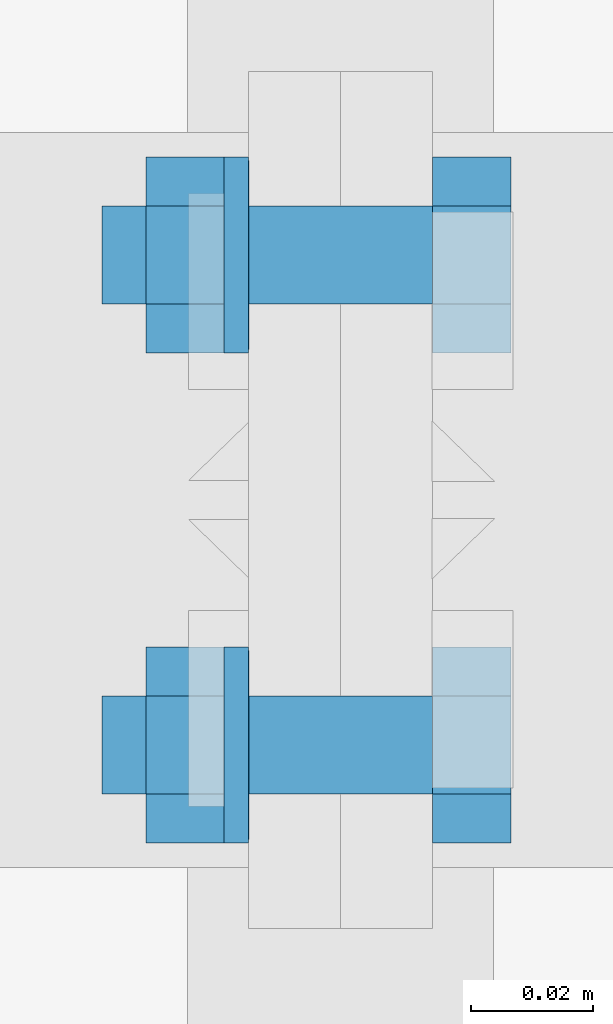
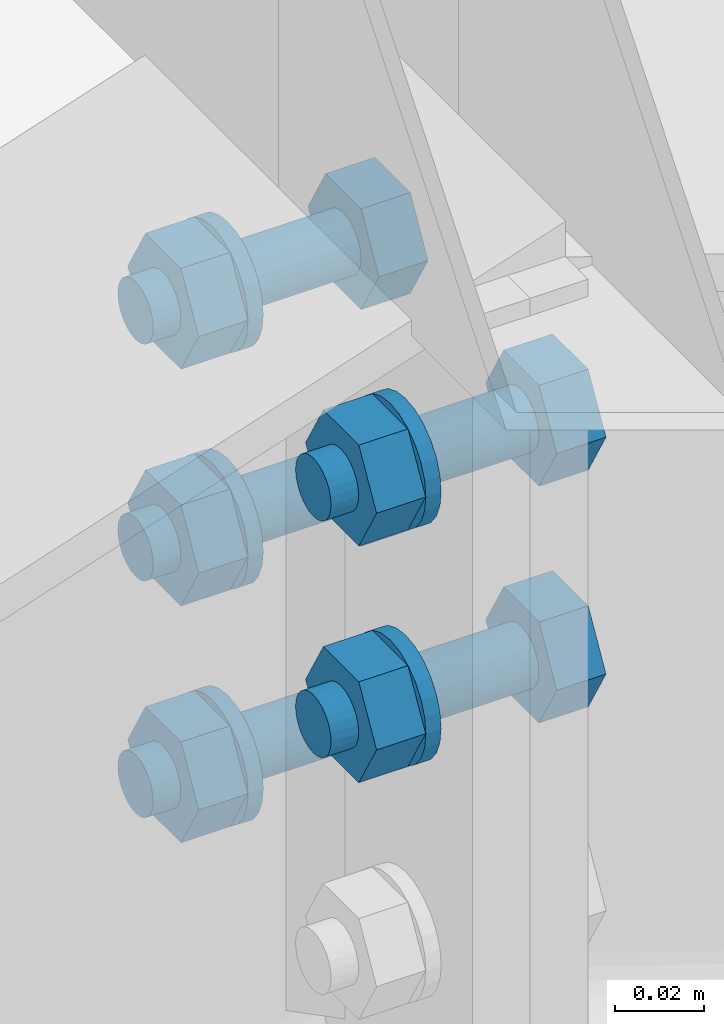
# One storey, part 27 of 53: 19 mechanical fasteners.
"""IFC4 building model written with IfcOpenShell, lengths in metres."""

from ifc_helpers import new_model, si_unit, frame, origin_with_axes, place, context, project, spatial, polyline, outline, extrude, type_object, element, save


model = new_model("IFC4")

# Units and contexts
model_context = context("Model", 3, precision=1e-05, world=origin_with_axes())
ifc_project = project(units=[si_unit("LENGTHUNIT", "METRE"), si_unit("AREAUNIT", "SQUARE_METRE"), si_unit("VOLUMEUNIT", "CUBIC_METRE"), si_unit("MASSUNIT", "GRAM", prefix="KILO"), si_unit("TIMEUNIT", "SECOND"), si_unit("PLANEANGLEUNIT", "RADIAN"), si_unit("SOLIDANGLEUNIT", "STERADIAN"), si_unit("THERMODYNAMICTEMPERATUREUNIT", "DEGREE_CELSIUS")], contexts=[model_context])

# Site, building, storey
placement_1 = place(None, origin_with_axes())
site = spatial("IfcSite", under=ifc_project, at=placement_1, Name="Italia", CompositionType="ELEMENT")
building = spatial("IfcBuilding", under=site, at=placement_1, Name="Capannone", CompositionType="ELEMENT")
storey_placement = place(None, frame((0.0, 0.0, 5.550000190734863), z_axis=(0.0, 0.0, 1.0), x_axis=(1.0, 0.0, 0.0)))
storey = spatial("IfcBuildingStorey", under=building, at=storey_placement, Name="Storey 1", CompositionType="ELEMENT", Elevation=5.550000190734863)

# Mechanical fasteners
mechanical_fastener_type_1 = type_object("IfcMechanicalFastenerType", Name="Collegamenti -1142_-1128 -1143_-1130 -1144_-1132 -1145_-1134 -1146_-1136 -1147_-1138", PredefinedType="BOLT")
placement_2 = place(placement_1, origin_with_axes())
mechanical_fastener_1_placement = place(placement_2, origin_with_axes())
element("IfcMechanicalFastener", 1, at=mechanical_fastener_1_placement, inside=storey, type_object=mechanical_fastener_type_1, Name="Collegamenti -1142_-1128 -1143_-1130 -1144_-1132 -1145_-1134 -1146_-1136 -1147_-1138", NominalDiameter=0.016, context=model_context, shape_type="SweptSolid", body=[
    extrude(outline(polyline([(0.0, 0.0), (-0.000272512, -0.00207043), (-0.00107169, -0.00400019), (-0.00234294, -0.00565672), (-0.00399995, -0.00692797), (-0.00592923, -0.00772762), (-0.0079999, -0.0079999), (-0.0100706, -0.00772762), (-0.0119998, -0.00692797), (-0.0136569, -0.00565672), (-0.0149281, -0.00400019), (-0.0157273, -0.00207043), (-0.0159998, 0.0), (-0.0157273, 0.00207043), (-0.0149281, 0.00400019), (-0.0136569, 0.00565672), (-0.0119998, 0.00692797), (-0.0100706, 0.00772762), (-0.0079999, 0.0079999), (-0.00592923, 0.00772762), (-0.00399995, 0.00692797), (-0.00234294, 0.00565672), (-0.00107169, 0.00400019), (-0.000272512, 0.00207043), (0.0, 0.0)])), frame((6.961, 3.048, 7.91131), z_axis=(1.0, 0.0, -1.7660668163e-05), x_axis=(0.0, 1.0, 0.0)), (0.0, 0.0, 1.0), 0.0539999),
])
mechanical_fastener_type_2 = type_object("IfcMechanicalFastenerType", Name="Collegamenti -1142_-1128 -1143_-1130 -1144_-1132 -1145_-1134 -1146_-1136 -1147_-1138", PredefinedType="BOLT")
mechanical_fastener_2_placement = place(placement_2, origin_with_axes())
element("IfcMechanicalFastener", 2, at=mechanical_fastener_2_placement, inside=storey, type_object=mechanical_fastener_type_2, Name="Collegamenti -1142_-1128 -1143_-1130 -1144_-1132 -1145_-1134 -1146_-1136 -1147_-1138", NominalDiameter=0.0159995, context=model_context, shape_type="SweptSolid", body=[
    extrude(outline(polyline([(0.0, 0.0), (-0.016, 0.0), (-0.0240002, 0.0138569), (-0.016, 0.0277128), (0.0, 0.0277128), (0.0079999, 0.0138569), (0.0, 0.0)])), frame((6.9682, 3.048, 7.89746), z_axis=(1.0, 0.0, 0.0), x_axis=(0.0, 1.0, 0.0)), (0.0, 0.0, 1.0), 0.0128002),
])
mechanical_fastener_type_3 = type_object("IfcMechanicalFastenerType", Name="Collegamenti -1142_-1128 -1143_-1130 -1144_-1132 -1145_-1134 -1146_-1136 -1147_-1138", PredefinedType="BOLT")
mechanical_fastener_3_placement = place(placement_2, origin_with_axes())
element("IfcMechanicalFastener", 3, at=mechanical_fastener_3_placement, inside=storey, type_object=mechanical_fastener_type_3, Name="Collegamenti -1142_-1128 -1143_-1130 -1144_-1132 -1145_-1134 -1146_-1136 -1147_-1138", NominalDiameter=0.032, context=model_context, shape_type="SweptSolid", body=[
    extrude(outline(polyline([(0.0, 0.0), (-0.000545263, -0.00414133), (-0.00214362, -0.0079999), (-0.00468636, -0.0113139), (-0.00800014, -0.0138564), (-0.0118589, -0.0154548), (-0.016, -0.0159998), (-0.0201411, -0.0154548), (-0.0239999, -0.0138564), (-0.0273137, -0.0113139), (-0.0298564, -0.0079999), (-0.0314548, -0.00414133), (-0.0320001, 0.0), (-0.0314548, 0.00414133), (-0.0298564, 0.0079999), (-0.0273137, 0.0113139), (-0.0239999, 0.0138564), (-0.0201411, 0.0154548), (-0.016, 0.0159998), (-0.0118589, 0.0154548), (-0.00800014, 0.0138564), (-0.00468636, 0.0113139), (-0.00214362, 0.0079999), (-0.000545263, 0.00414133), (0.0, 0.0)])), frame((6.981, 3.056, 7.91131), z_axis=(1.0, 0.0, 0.0), x_axis=(0.0, 1.0, 0.0)), (0.0, 0.0, 1.0), 0.00399923),
])
mechanical_fastener_type_4 = type_object("IfcMechanicalFastenerType", Name="Collegamenti -1142_-1128 -1143_-1130 -1144_-1132 -1145_-1134 -1146_-1136 -1147_-1138", PredefinedType="BOLT")
mechanical_fastener_4_placement = place(placement_2, origin_with_axes())
element("IfcMechanicalFastener", 4, at=mechanical_fastener_4_placement, inside=storey, type_object=mechanical_fastener_type_4, Name="Collegamenti -1142_-1128 -1143_-1130 -1144_-1132 -1145_-1134 -1146_-1136 -1147_-1138", NominalDiameter=0.0159995, context=model_context, shape_type="SweptSolid", body=[
    extrude(outline(polyline([(0.0, 0.0), (-0.016, 0.0), (-0.0239999, 0.0138559), (-0.016, 0.0277128), (0.0, 0.0277128), (0.00800014, 0.0138559), (0.0, 0.0)])), frame((7.015, 2.968, 7.96246), z_axis=(1.0, 0.0, 3.7252273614e-05), x_axis=(0.0, 1.0, 0.0)), (0.0, 0.0, 1.0), 0.0128002),
])
mechanical_fastener_type_5 = type_object("IfcMechanicalFastenerType", Name="Collegamenti -1142_-1128 -1143_-1130 -1144_-1132 -1145_-1134 -1146_-1136 -1147_-1138", PredefinedType="BOLT")
mechanical_fastener_5_placement = place(placement_2, origin_with_axes())
element("IfcMechanicalFastener", 5, at=mechanical_fastener_5_placement, inside=storey, type_object=mechanical_fastener_type_5, Name="Collegamenti -1142_-1128 -1143_-1130 -1144_-1132 -1145_-1134 -1146_-1136 -1147_-1138", NominalDiameter=0.016, context=model_context, shape_type="SweptSolid", body=[
    extrude(outline(polyline([(0.0, 0.0), (-0.000272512, -0.00207043), (-0.00107169, -0.00400019), (-0.00234294, -0.00565672), (-0.00399995, -0.00692797), (-0.00592923, -0.00772762), (-0.0079999, -0.0079999), (-0.0100706, -0.00772762), (-0.0119998, -0.00692797), (-0.0136569, -0.00565672), (-0.0149281, -0.00400019), (-0.0157273, -0.00207043), (-0.0159998, 0.0), (-0.0157273, 0.00207043), (-0.0149281, 0.00400019), (-0.0136569, 0.00565672), (-0.0119998, 0.00692797), (-0.0100706, 0.00772762), (-0.0079999, 0.0079999), (-0.00592923, 0.00772762), (-0.00399995, 0.00692797), (-0.00234294, 0.00565672), (-0.00107169, 0.00400019), (-0.000272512, 0.00207043), (0.0, 0.0)])), frame((6.961, 2.968, 7.97631), z_axis=(1.0, 0.0, 0.0), x_axis=(0.0, 1.0, 0.0)), (0.0, 0.0, 1.0), 0.0539999),
])
mechanical_fastener_type_6 = type_object("IfcMechanicalFastenerType", Name="Collegamenti -1142_-1128 -1143_-1130 -1144_-1132 -1145_-1134 -1146_-1136 -1147_-1138", PredefinedType="BOLT")
mechanical_fastener_6_placement = place(placement_2, origin_with_axes())
element("IfcMechanicalFastener", 6, at=mechanical_fastener_6_placement, inside=storey, type_object=mechanical_fastener_type_6, Name="Collegamenti -1142_-1128 -1143_-1130 -1144_-1132 -1145_-1134 -1146_-1136 -1147_-1138", NominalDiameter=0.0159995, context=model_context, shape_type="SweptSolid", body=[
    extrude(outline(polyline([(0.0, 0.0), (-0.016, 0.0), (-0.0239999, 0.0138559), (-0.016, 0.0277128), (0.0, 0.0277128), (0.00800014, 0.0138559), (0.0, 0.0)])), frame((6.9682, 2.968, 7.96246), z_axis=(1.0, 0.0, -3.7253659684e-05), x_axis=(0.0, 1.0, 0.0)), (0.0, 0.0, 1.0), 0.0127997),
])
mechanical_fastener_type_7 = type_object("IfcMechanicalFastenerType", Name="Collegamenti -1142_-1128 -1143_-1130 -1144_-1132 -1145_-1134 -1146_-1136 -1147_-1138", PredefinedType="BOLT")
mechanical_fastener_7_placement = place(placement_2, origin_with_axes())
element("IfcMechanicalFastener", 7, at=mechanical_fastener_7_placement, inside=storey, type_object=mechanical_fastener_type_7, Name="Collegamenti -1142_-1128 -1143_-1130 -1144_-1132 -1145_-1134 -1146_-1136 -1147_-1138", NominalDiameter=0.032, context=model_context, shape_type="SweptSolid", body=[
    extrude(outline(polyline([(0.0, 0.0), (-0.000545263, -0.00414133), (-0.00214362, -0.0079999), (-0.00468636, -0.0113139), (-0.00800014, -0.0138564), (-0.0118589, -0.0154548), (-0.016, -0.0159998), (-0.0201411, -0.0154548), (-0.0239999, -0.0138564), (-0.0273137, -0.0113139), (-0.0298564, -0.0079999), (-0.0314548, -0.00414133), (-0.0320001, 0.0), (-0.0314548, 0.00414133), (-0.0298564, 0.0079999), (-0.0273137, 0.0113139), (-0.0239999, 0.0138564), (-0.0201411, 0.0154548), (-0.016, 0.0159998), (-0.0118589, 0.0154548), (-0.00800014, 0.0138564), (-0.00468636, 0.0113139), (-0.00214362, 0.0079999), (-0.000545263, 0.00414133), (0.0, 0.0)])), frame((6.981, 2.976, 7.97631), z_axis=(1.0, 0.0, 0.000238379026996), x_axis=(0.0, 1.0, 0.0)), (0.0, 0.0, 1.0), 0.00400066),
])
mechanical_fastener_type_8 = type_object("IfcMechanicalFastenerType", Name="Collegamenti -1142_-1128 -1143_-1130 -1144_-1132 -1145_-1134 -1146_-1136 -1147_-1138", PredefinedType="BOLT")
mechanical_fastener_8_placement = place(placement_2, origin_with_axes())
element("IfcMechanicalFastener", 8, at=mechanical_fastener_8_placement, inside=storey, type_object=mechanical_fastener_type_8, Name="Collegamenti -1142_-1128 -1143_-1130 -1144_-1132 -1145_-1134 -1146_-1136 -1147_-1138", NominalDiameter=0.0159995, context=model_context, shape_type="SweptSolid", body=[
    extrude(outline(polyline([(0.0, 0.0), (-0.016, 0.0), (-0.0240002, 0.0138559), (-0.016, 0.0277128), (0.0, 0.0277128), (0.0079999, 0.0138559), (0.0, 0.0)])), frame((7.015, 3.048, 7.96246), z_axis=(1.0, 0.0, 3.7252273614e-05), x_axis=(0.0, 1.0, 0.0)), (0.0, 0.0, 1.0), 0.0128002),
])
mechanical_fastener_type_9 = type_object("IfcMechanicalFastenerType", Name="Collegamenti -1142_-1128 -1143_-1130 -1144_-1132 -1145_-1134 -1146_-1136 -1147_-1138", PredefinedType="BOLT")
mechanical_fastener_9_placement = place(placement_2, origin_with_axes())
element("IfcMechanicalFastener", 9, at=mechanical_fastener_9_placement, inside=storey, type_object=mechanical_fastener_type_9, Name="Collegamenti -1142_-1128 -1143_-1130 -1144_-1132 -1145_-1134 -1146_-1136 -1147_-1138", NominalDiameter=0.016, context=model_context, shape_type="SweptSolid", body=[
    extrude(outline(polyline([(0.0, 0.0), (-0.000272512, -0.00207043), (-0.00107169, -0.00400019), (-0.00234294, -0.00565672), (-0.00399995, -0.00692797), (-0.00592923, -0.00772762), (-0.0079999, -0.0079999), (-0.0100706, -0.00772762), (-0.0119998, -0.00692797), (-0.0136569, -0.00565672), (-0.0149281, -0.00400019), (-0.0157273, -0.00207043), (-0.0159998, 0.0), (-0.0157273, 0.00207043), (-0.0149281, 0.00400019), (-0.0136569, 0.00565672), (-0.0119998, 0.00692797), (-0.0100706, 0.00772762), (-0.0079999, 0.0079999), (-0.00592923, 0.00772762), (-0.00399995, 0.00692797), (-0.00234294, 0.00565672), (-0.00107169, 0.00400019), (-0.000272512, 0.00207043), (0.0, 0.0)])), frame((6.961, 3.048, 7.97631), z_axis=(1.0, 0.0, 0.0), x_axis=(0.0, 1.0, 0.0)), (0.0, 0.0, 1.0), 0.0539999),
])
mechanical_fastener_type_10 = type_object("IfcMechanicalFastenerType", Name="Collegamenti -1142_-1128 -1143_-1130 -1144_-1132 -1145_-1134 -1146_-1136 -1147_-1138", PredefinedType="BOLT")
mechanical_fastener_10_placement = place(placement_2, origin_with_axes())
element("IfcMechanicalFastener", 10, at=mechanical_fastener_10_placement, inside=storey, type_object=mechanical_fastener_type_10, Name="Collegamenti -1142_-1128 -1143_-1130 -1144_-1132 -1145_-1134 -1146_-1136 -1147_-1138", NominalDiameter=0.0159995, context=model_context, shape_type="SweptSolid", body=[
    extrude(outline(polyline([(0.0, 0.0), (-0.016, 0.0), (-0.0240002, 0.0138559), (-0.016, 0.0277128), (0.0, 0.0277128), (0.0079999, 0.0138559), (0.0, 0.0)])), frame((6.9682, 3.048, 7.96246), z_axis=(1.0, 0.0, -3.7253659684e-05), x_axis=(0.0, 1.0, 0.0)), (0.0, 0.0, 1.0), 0.0127997),
])
mechanical_fastener_type_11 = type_object("IfcMechanicalFastenerType", Name="Collegamenti -1142_-1128 -1143_-1130 -1144_-1132 -1145_-1134 -1146_-1136 -1147_-1138", PredefinedType="BOLT")
mechanical_fastener_11_placement = place(placement_2, origin_with_axes())
element("IfcMechanicalFastener", 11, at=mechanical_fastener_11_placement, inside=storey, type_object=mechanical_fastener_type_11, Name="Collegamenti -1142_-1128 -1143_-1130 -1144_-1132 -1145_-1134 -1146_-1136 -1147_-1138", NominalDiameter=0.032, context=model_context, shape_type="SweptSolid", body=[
    extrude(outline(polyline([(0.0, 0.0), (-0.000545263, -0.00414133), (-0.00214362, -0.0079999), (-0.00468636, -0.0113139), (-0.00800014, -0.0138564), (-0.0118589, -0.0154548), (-0.016, -0.0159998), (-0.0201411, -0.0154548), (-0.0239999, -0.0138564), (-0.0273137, -0.0113139), (-0.0298564, -0.0079999), (-0.0314548, -0.00414133), (-0.0320001, 0.0), (-0.0314548, 0.00414133), (-0.0298564, 0.0079999), (-0.0273137, 0.0113139), (-0.0239999, 0.0138564), (-0.0201411, 0.0154548), (-0.016, 0.0159998), (-0.0118589, 0.0154548), (-0.00800014, 0.0138564), (-0.00468636, 0.0113139), (-0.00214362, 0.0079999), (-0.000545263, 0.00414133), (0.0, 0.0)])), frame((6.981, 3.056, 7.97631), z_axis=(1.0, 0.0, 0.000238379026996), x_axis=(0.0, 1.0, 0.0)), (0.0, 0.0, 1.0), 0.00400066),
])
mechanical_fastener_type_12 = type_object("IfcMechanicalFastenerType", Name="Collegamenti -1142_-1128 -1143_-1130 -1144_-1132 -1145_-1134 -1146_-1136 -1147_-1138", PredefinedType="BOLT")
mechanical_fastener_12_placement = place(placement_2, origin_with_axes())
element("IfcMechanicalFastener", 12, at=mechanical_fastener_12_placement, inside=storey, type_object=mechanical_fastener_type_12, Name="Collegamenti -1142_-1128 -1143_-1130 -1144_-1132 -1145_-1134 -1146_-1136 -1147_-1138", NominalDiameter=0.0159995, context=model_context, shape_type="SweptSolid", body=[
    extrude(outline(polyline([(0.0, 0.0), (-0.016, 0.0), (-0.0239999, 0.0138559), (-0.016, 0.0277128), (0.0, 0.0277128), (0.00800014, 0.0138559), (0.0, 0.0)])), frame((7.015, 2.968, 8.02746), z_axis=(1.0, 0.0, 7.4504547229e-05), x_axis=(0.0, 1.0, 0.0)), (0.0, 0.0, 1.0), 0.0128002),
])
mechanical_fastener_type_13 = type_object("IfcMechanicalFastenerType", Name="Collegamenti -1142_-1128 -1143_-1130 -1144_-1132 -1145_-1134 -1146_-1136 -1147_-1138", PredefinedType="BOLT")
mechanical_fastener_13_placement = place(placement_2, origin_with_axes())
element("IfcMechanicalFastener", 13, at=mechanical_fastener_13_placement, inside=storey, type_object=mechanical_fastener_type_13, Name="Collegamenti -1142_-1128 -1143_-1130 -1144_-1132 -1145_-1134 -1146_-1136 -1147_-1138", NominalDiameter=0.016, context=model_context, shape_type="SweptSolid", body=[
    extrude(outline(polyline([(0.0, 0.0), (-0.000272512, -0.00207043), (-0.00107169, -0.00399971), (-0.00234294, -0.0056572), (-0.00399995, -0.00692844), (-0.00592923, -0.00772762), (-0.0079999, -0.00800037), (-0.0100706, -0.00772762), (-0.0119998, -0.00692844), (-0.0136569, -0.0056572), (-0.0149281, -0.00399971), (-0.0157273, -0.00207043), (-0.0159998, 0.0), (-0.0157273, 0.00207043), (-0.0149281, 0.00399971), (-0.0136569, 0.0056572), (-0.0119998, 0.00692844), (-0.0100706, 0.00772762), (-0.0079999, 0.00800037), (-0.00592923, 0.00772762), (-0.00399995, 0.00692844), (-0.00234294, 0.0056572), (-0.00107169, 0.00399971), (-0.000272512, 0.00207043), (0.0, 0.0)])), frame((6.961, 2.968, 8.04131), z_axis=(1.0, 0.0, 3.5321023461e-05), x_axis=(0.0, 1.0, 0.0)), (0.0, 0.0, 1.0), 0.0540004),
])
mechanical_fastener_type_14 = type_object("IfcMechanicalFastenerType", Name="Collegamenti -1142_-1128 -1143_-1130 -1144_-1132 -1145_-1134 -1146_-1136 -1147_-1138", PredefinedType="BOLT")
mechanical_fastener_14_placement = place(placement_2, origin_with_axes())
element("IfcMechanicalFastener", 14, at=mechanical_fastener_14_placement, inside=storey, type_object=mechanical_fastener_type_14, Name="Collegamenti -1142_-1128 -1143_-1130 -1144_-1132 -1145_-1134 -1146_-1136 -1147_-1138", NominalDiameter=0.0159995, context=model_context, shape_type="SweptSolid", body=[
    extrude(outline(polyline([(0.0, 0.0), (-0.016, 0.0), (-0.0239999, 0.0138559), (-0.016, 0.0277128), (0.0, 0.0277128), (0.00800014, 0.0138559), (0.0, 0.0)])), frame((6.9682, 2.968, 8.02746), z_axis=(1.0, 0.0, -7.4507319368e-05), x_axis=(0.0, 1.0, 0.0)), (0.0, 0.0, 1.0), 0.0127997),
])
mechanical_fastener_type_15 = type_object("IfcMechanicalFastenerType", Name="Collegamenti -1142_-1128 -1143_-1130 -1144_-1132 -1145_-1134 -1146_-1136 -1147_-1138", PredefinedType="BOLT")
mechanical_fastener_15_placement = place(placement_2, origin_with_axes())
element("IfcMechanicalFastener", 15, at=mechanical_fastener_15_placement, inside=storey, type_object=mechanical_fastener_type_15, Name="Collegamenti -1142_-1128 -1143_-1130 -1144_-1132 -1145_-1134 -1146_-1136 -1147_-1138", NominalDiameter=0.032, context=model_context, shape_type="SweptSolid", body=[
    extrude(outline(polyline([(0.0, 0.0), (-0.000545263, -0.00414085), (-0.00214362, -0.00800037), (-0.00468636, -0.0113134), (-0.00800014, -0.0138559), (-0.0118589, -0.0154552), (-0.016, -0.0159998), (-0.0201411, -0.0154552), (-0.0239999, -0.0138559), (-0.0273137, -0.0113134), (-0.0298564, -0.00800037), (-0.0314548, -0.00414085), (-0.0320001, 0.0), (-0.0314548, 0.00414085), (-0.0298564, 0.00800037), (-0.0273137, 0.0113134), (-0.0239999, 0.0138559), (-0.0201411, 0.0154552), (-0.016, 0.0159998), (-0.0118589, 0.0154552), (-0.00800014, 0.0138559), (-0.00468636, 0.0113134), (-0.00214362, 0.00800037), (-0.000545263, 0.00414085), (0.0, 0.0)])), frame((6.981, 2.976, 8.04131), z_axis=(0.99999988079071, 0.0, 0.000476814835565), x_axis=(0.0, 1.0, 0.0)), (0.0, 0.0, 1.0), 0.00400019),
])
mechanical_fastener_type_16 = type_object("IfcMechanicalFastenerType", Name="Collegamenti -1142_-1128 -1143_-1130 -1144_-1132 -1145_-1134 -1146_-1136 -1147_-1138", PredefinedType="BOLT")
mechanical_fastener_16_placement = place(placement_2, origin_with_axes())
element("IfcMechanicalFastener", 16, at=mechanical_fastener_16_placement, inside=storey, type_object=mechanical_fastener_type_16, Name="Collegamenti -1142_-1128 -1143_-1130 -1144_-1132 -1145_-1134 -1146_-1136 -1147_-1138", NominalDiameter=0.0159995, context=model_context, shape_type="SweptSolid", body=[
    extrude(outline(polyline([(0.0, 0.0), (-0.016, 0.0), (-0.0240002, 0.0138559), (-0.016, 0.0277128), (0.0, 0.0277128), (0.0079999, 0.0138559), (0.0, 0.0)])), frame((7.015, 3.048, 8.02746), z_axis=(1.0, 0.0, 7.4504547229e-05), x_axis=(0.0, 1.0, 0.0)), (0.0, 0.0, 1.0), 0.0128002),
])
mechanical_fastener_type_17 = type_object("IfcMechanicalFastenerType", Name="Collegamenti -1142_-1128 -1143_-1130 -1144_-1132 -1145_-1134 -1146_-1136 -1147_-1138", PredefinedType="BOLT")
mechanical_fastener_17_placement = place(placement_2, origin_with_axes())
element("IfcMechanicalFastener", 17, at=mechanical_fastener_17_placement, inside=storey, type_object=mechanical_fastener_type_17, Name="Collegamenti -1142_-1128 -1143_-1130 -1144_-1132 -1145_-1134 -1146_-1136 -1147_-1138", NominalDiameter=0.016, context=model_context, shape_type="SweptSolid", body=[
    extrude(outline(polyline([(0.0, 0.0), (-0.000272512, -0.00207043), (-0.00107169, -0.00399971), (-0.00234294, -0.0056572), (-0.00399995, -0.00692844), (-0.00592923, -0.00772762), (-0.0079999, -0.00800037), (-0.0100706, -0.00772762), (-0.0119998, -0.00692844), (-0.0136569, -0.0056572), (-0.0149281, -0.00399971), (-0.0157273, -0.00207043), (-0.0159998, 0.0), (-0.0157273, 0.00207043), (-0.0149281, 0.00399971), (-0.0136569, 0.0056572), (-0.0119998, 0.00692844), (-0.0100706, 0.00772762), (-0.0079999, 0.00800037), (-0.00592923, 0.00772762), (-0.00399995, 0.00692844), (-0.00234294, 0.0056572), (-0.00107169, 0.00399971), (-0.000272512, 0.00207043), (0.0, 0.0)])), frame((6.961, 3.048, 8.04131), z_axis=(1.0, 0.0, 3.5321023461e-05), x_axis=(0.0, 1.0, 0.0)), (0.0, 0.0, 1.0), 0.0540004),
])
mechanical_fastener_type_18 = type_object("IfcMechanicalFastenerType", Name="Collegamenti -1142_-1128 -1143_-1130 -1144_-1132 -1145_-1134 -1146_-1136 -1147_-1138", PredefinedType="BOLT")
mechanical_fastener_18_placement = place(placement_2, origin_with_axes())
element("IfcMechanicalFastener", 18, at=mechanical_fastener_18_placement, inside=storey, type_object=mechanical_fastener_type_18, Name="Collegamenti -1142_-1128 -1143_-1130 -1144_-1132 -1145_-1134 -1146_-1136 -1147_-1138", NominalDiameter=0.0159995, context=model_context, shape_type="SweptSolid", body=[
    extrude(outline(polyline([(0.0, 0.0), (-0.016, 0.0), (-0.0240002, 0.0138559), (-0.016, 0.0277128), (0.0, 0.0277128), (0.0079999, 0.0138559), (0.0, 0.0)])), frame((6.9682, 3.048, 8.02746), z_axis=(1.0, 0.0, -7.4507319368e-05), x_axis=(0.0, 1.0, 0.0)), (0.0, 0.0, 1.0), 0.0127997),
])
mechanical_fastener_type_19 = type_object("IfcMechanicalFastenerType", Name="Collegamenti -1142_-1128 -1143_-1130 -1144_-1132 -1145_-1134 -1146_-1136 -1147_-1138", PredefinedType="BOLT")
mechanical_fastener_19_placement = place(placement_2, origin_with_axes())
element("IfcMechanicalFastener", 19, at=mechanical_fastener_19_placement, inside=storey, type_object=mechanical_fastener_type_19, Name="Collegamenti -1142_-1128 -1143_-1130 -1144_-1132 -1145_-1134 -1146_-1136 -1147_-1138", NominalDiameter=0.032, context=model_context, shape_type="SweptSolid", body=[
    extrude(outline(polyline([(0.0, 0.0), (-0.000545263, -0.00414085), (-0.00214362, -0.00800037), (-0.00468636, -0.0113134), (-0.00800014, -0.0138559), (-0.0118589, -0.0154552), (-0.016, -0.0159998), (-0.0201411, -0.0154552), (-0.0239999, -0.0138559), (-0.0273137, -0.0113134), (-0.0298564, -0.00800037), (-0.0314548, -0.00414085), (-0.0320001, 0.0), (-0.0314548, 0.00414085), (-0.0298564, 0.00800037), (-0.0273137, 0.0113134), (-0.0239999, 0.0138559), (-0.0201411, 0.0154552), (-0.016, 0.0159998), (-0.0118589, 0.0154552), (-0.00800014, 0.0138559), (-0.00468636, 0.0113134), (-0.00214362, 0.00800037), (-0.000545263, 0.00414085), (0.0, 0.0)])), frame((6.981, 3.056, 8.04131), z_axis=(0.99999988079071, 0.0, 0.000476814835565), x_axis=(0.0, 1.0, 0.0)), (0.0, 0.0, 1.0), 0.00400019),
])

save(model, "model.ifc")
